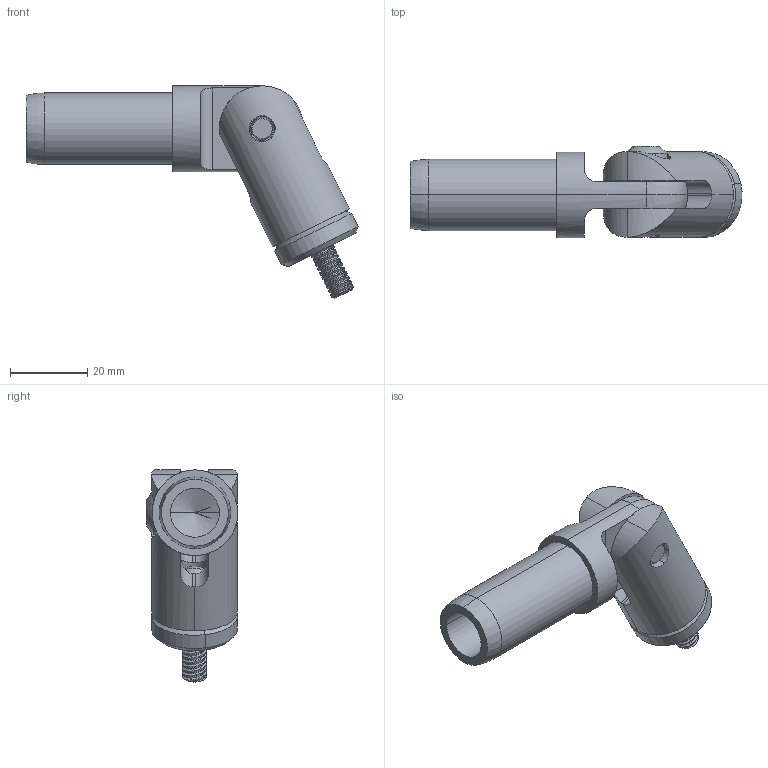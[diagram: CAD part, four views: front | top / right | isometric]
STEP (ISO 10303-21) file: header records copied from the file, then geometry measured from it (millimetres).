
FILE_DESCRIPTION (( 'STEP AP214' ), '1' );
FILE_NAME ('Adjustable Camera Mount for 0.75 Inch Tube.STEP', '2014-01-09T15:37:55', ( 'ydmin' ), ( 'Microsoft' ), 'SwSTEP 2.0', 'SolidWorks 2013', '' );
FILE_SCHEMA (( 'AUTOMOTIVE_DESIGN' ));
Length unit declared in the file: inch
Products named in the file (1): Adjustable Camera Mount for 0.75 Inch Tube
Bounding box: 86.14 x 23.74 x 55.06 mm (x, y, z)
Volume: 25285.7 mm3; surface area: 14414.3 mm2
Topology: 7 solids, 7 shells, 456 faces, 966 edges, 523 vertices
Faces by surface type: cone 194, cylinder 191, plane 47, bspline 16, torus 4, sphere 4
Entity records: 25830 total; most frequent: CARTESIAN_POINT 10552, ORIENTED_EDGE 1920, DIRECTION 1882, EDGE_CURVE 960, AXIS2_PLACEMENT_3D 723, VERTEX_POINT 523, EDGE_LOOP 471, UNCERTAINTY_MEASURE_WITH_UNIT 465
